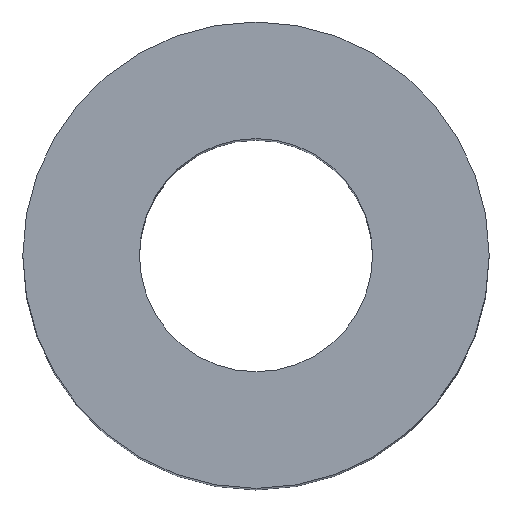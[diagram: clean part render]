
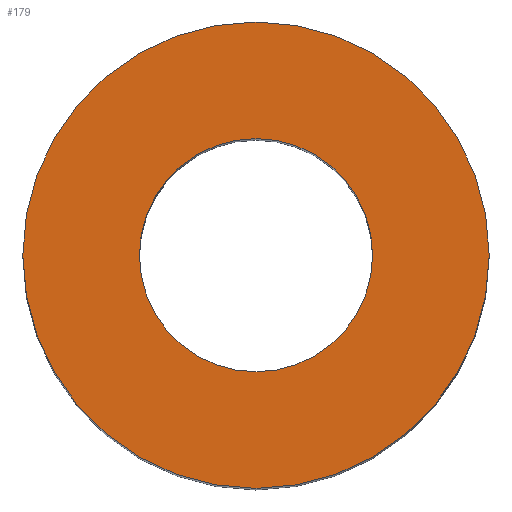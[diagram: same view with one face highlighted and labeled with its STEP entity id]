
A CAD part, top view. The second image highlights one B-rep face of the part: STEP entity #179.
In plain terms, the highlighted planar face has unit normal (0, 0, 1).
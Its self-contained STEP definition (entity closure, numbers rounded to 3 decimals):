
#1 = VERTEX_POINT ( 'NONE', #196 ) ;
#7 = ORIENTED_EDGE ( 'NONE', *, *, #145, .T. ) ;
#8 = ORIENTED_EDGE ( 'NONE', *, *, #163, .F. ) ;
#10 = AXIS2_PLACEMENT_3D ( 'NONE', #81, #48, #185 ) ;
#11 = DIRECTION ( 'NONE',  ( 1., 0., 0. ) ) ;
#28 = DIRECTION ( 'NONE',  ( 0., 0., 1. ) ) ;
#35 = AXIS2_PLACEMENT_3D ( 'NONE', #203, #121, #110 ) ;
#38 = FACE_BOUND ( 'NONE', #66, .T. ) ;
#41 = ORIENTED_EDGE ( 'NONE', *, *, #118, .F. ) ;
#43 = FACE_OUTER_BOUND ( 'NONE', #91, .T. ) ;
#47 = CARTESIAN_POINT ( 'NONE',  ( 0., 0., 32. ) ) ;
#48 = DIRECTION ( 'NONE',  ( 0., 0., 1. ) ) ;
#53 = VERTEX_POINT ( 'NONE', #181 ) ;
#66 = EDGE_LOOP ( 'NONE', ( #41, #8 ) ) ;
#72 = CIRCLE ( 'NONE', #10, 4. ) ;
#73 = DIRECTION ( 'NONE',  ( 1., 0., 0. ) ) ;
#79 = DIRECTION ( 'NONE',  ( 0., 0., 1. ) ) ;
#81 = CARTESIAN_POINT ( 'NONE',  ( 0., 0., 32. ) ) ;
#91 = EDGE_LOOP ( 'NONE', ( #7, #182 ) ) ;
#92 = VERTEX_POINT ( 'NONE', #172 ) ;
#100 = CIRCLE ( 'NONE', #114, 8. ) ;
#110 = DIRECTION ( 'NONE',  ( 1., 0., 0. ) ) ;
#111 = CIRCLE ( 'NONE', #158, 4. ) ;
#114 = AXIS2_PLACEMENT_3D ( 'NONE', #140, #79, #11 ) ;
#118 = EDGE_CURVE ( 'NONE', #92, #1, #72, .T. ) ;
#121 = DIRECTION ( 'NONE',  ( 0., 0., 1. ) ) ;
#140 = CARTESIAN_POINT ( 'NONE',  ( 0., 0., 32. ) ) ;
#141 = PLANE ( 'NONE',  #188 ) ;
#145 = EDGE_CURVE ( 'NONE', #53, #192, #100, .T. ) ;
#150 = CARTESIAN_POINT ( 'NONE',  ( 0., 0., 32. ) ) ;
#152 = CARTESIAN_POINT ( 'NONE',  ( 8., 0., 32. ) ) ;
#157 = DIRECTION ( 'NONE',  ( 1., 0., 0. ) ) ;
#158 = AXIS2_PLACEMENT_3D ( 'NONE', #47, #197, #157 ) ;
#162 = CIRCLE ( 'NONE', #35, 8. ) ;
#163 = EDGE_CURVE ( 'NONE', #1, #92, #111, .T. ) ;
#172 = CARTESIAN_POINT ( 'NONE',  ( -4., 0., 32. ) ) ;
#175 = EDGE_CURVE ( 'NONE', #192, #53, #162, .T. ) ;
#179 = ADVANCED_FACE ( 'NONE', ( #43, #38 ), #141, .T. ) ;
#181 = CARTESIAN_POINT ( 'NONE',  ( -8., 0., 32. ) ) ;
#182 = ORIENTED_EDGE ( 'NONE', *, *, #175, .T. ) ;
#185 = DIRECTION ( 'NONE',  ( 1., 0., 0. ) ) ;
#188 = AXIS2_PLACEMENT_3D ( 'NONE', #150, #28, #73 ) ;
#192 = VERTEX_POINT ( 'NONE', #152 ) ;
#196 = CARTESIAN_POINT ( 'NONE',  ( 4., 0., 32. ) ) ;
#197 = DIRECTION ( 'NONE',  ( 0., 0., 1. ) ) ;
#203 = CARTESIAN_POINT ( 'NONE',  ( 0., 0., 32. ) ) ;
